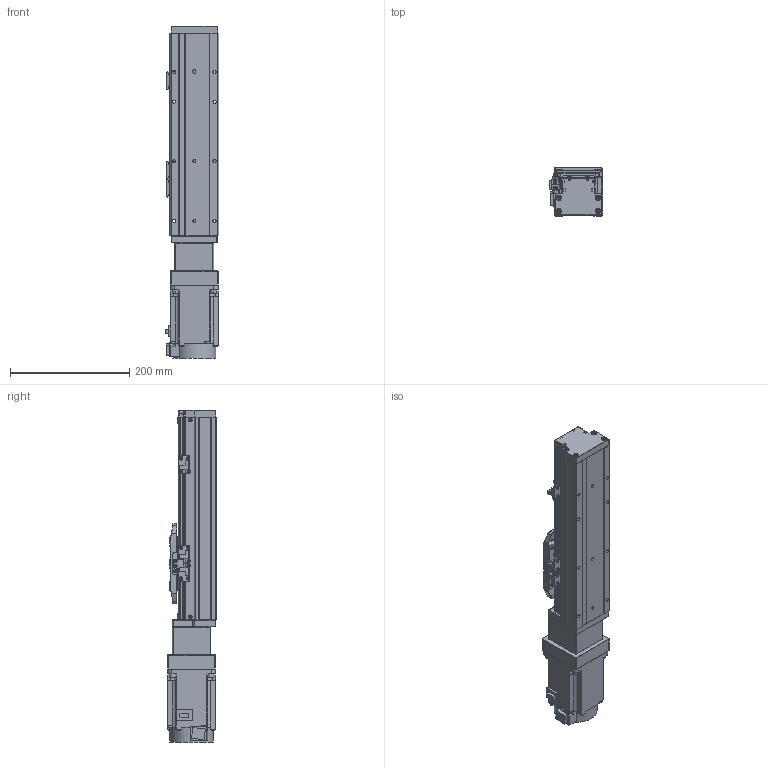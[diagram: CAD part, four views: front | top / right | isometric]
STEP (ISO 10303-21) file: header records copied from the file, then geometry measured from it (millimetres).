
FILE_DESCRIPTION (( 'STEP AP203' ), '1' );
FILE_NAME ('GTH8-150-BC-M75-C4.step', '2023-02-14T02:18:34', ( '微软用户' ), ( '微软中国' ), 'SwSTEP 2.0', 'SolidWorks 2020', '' );
FILE_SCHEMA (( 'CONFIG_CONTROL_DESIGN' ));
Length unit declared in the file: millimetre
Products named in the file (19): hg-kn73j_-s100; GTH80-013; GTH50-023; GTH8-150-BC-M75-C4; GBT 70.3-M3℅6; GBT96.1-2002 3×0.8; GTH80-022; BTH-M3X5X6; GTH80-001_150; GBT 70.1-M3℅6; CTHA86-006-1_CTHA86-006-4; GTH80-003; GBT 70.1-M4×16; CTHA86-013; GTH80-004; GTH80-028; CTHA86-027; GTH80-006; GTH50-024
Assembly tree (60 placements, depth 2):
  GTH8-150-BC-M75-C4
    GTH80-001_150
    GTH80-003
    GTH80-004
    GTH80-006
    GTH80-013
    GBT 70.3-M3℅6  x6
    GTH80-022
    GBT 70.1-M3℅6  x14
    GBT 70.1-M4×16  x8
    GTH80-028  x2
    GTH50-024  x3
    GTH50-023  x3
    GBT96.1-2002 3×0.8  x6
    BTH-M3X5X6  x8
    CTHA86-006-1_CTHA86-006-4
    CTHA86-013
    CTHA86-027
    hg-kn73j_-s100
Bounding box: 89.8 x 81.72 x 557.2 mm (x, y, z)
Volume: 2700672.2 mm3; surface area: 326363 mm2
Topology: 62 solids, 62 shells, 2241 faces, 5150 edges, 3136 vertices
Faces by surface type: plane 1185, cylinder 599, cone 285, torus 162, sphere 8, bspline 2
Entity records: 39045 total; most frequent: CARTESIAN_POINT 6434, DIRECTION 6419, ORIENTED_EDGE 5890, EDGE_CURVE 2945, AXIS2_PLACEMENT_3D 2239, VECTOR 1941, LINE 1941, VERTEX_POINT 1849
